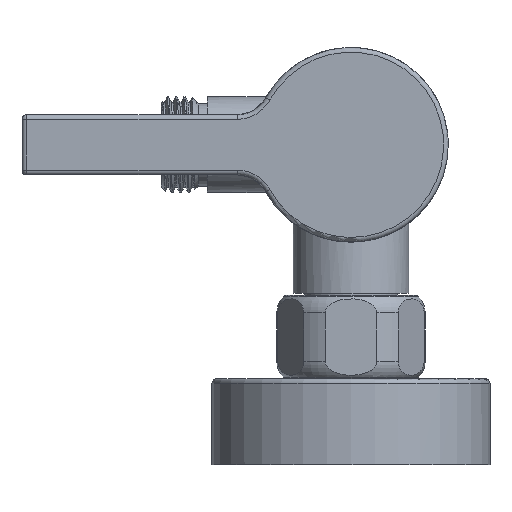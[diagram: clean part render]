
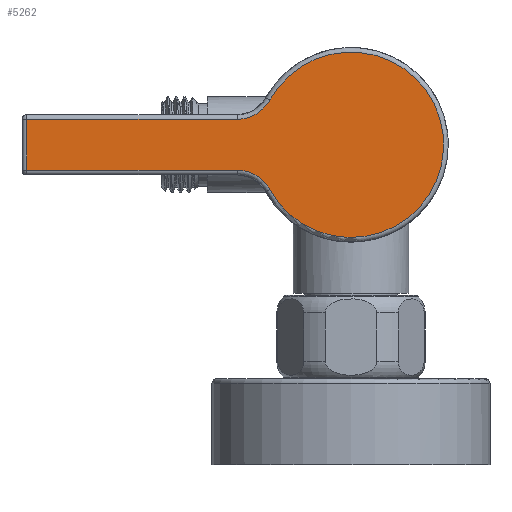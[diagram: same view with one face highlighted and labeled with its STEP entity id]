
A CAD part, front view. The second image highlights one B-rep face of the part: STEP entity #5262.
In plain terms, the highlighted planar face has unit normal (0, -1, 0).
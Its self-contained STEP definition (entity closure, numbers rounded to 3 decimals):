
#662=CARTESIAN_POINT('',(-24.531,-211.35,-13.5));
#663=DIRECTION('',(0.,-1.,0.));
#664=DIRECTION('',(0.876,0.,0.482));
#665=AXIS2_PLACEMENT_3D('',#662,#663,#664);
#667=CARTESIAN_POINT('',(-24.531,-211.35,13.5));
#668=DIRECTION('',(0.,-1.,0.));
#669=DIRECTION('',(0.,0.,-1.));
#670=AXIS2_PLACEMENT_3D('',#667,#668,#669);
#672=CARTESIAN_POINT('',(0.,-211.35,0.));
#673=DIRECTION('',(0.,1.,0.));
#674=DIRECTION('',(-0.876,0.,0.482));
#675=AXIS2_PLACEMENT_3D('',#672,#673,#674);
#677=CARTESIAN_POINT('',(0.,-211.35,0.));
#678=DIRECTION('',(0.,1.,0.));
#679=DIRECTION('',(0.992,0.,0.123));
#680=AXIS2_PLACEMENT_3D('',#677,#678,#679);
#682=DIRECTION('',(1.,0.,0.));
#683=VECTOR('',#682,45.469);
#684=CARTESIAN_POINT('',(-70.,-211.35,-5.5));
#685=LINE('',#684,#683);
#835=DIRECTION('',(-1.,0.,0.));
#836=VECTOR('',#835,45.469);
#837=CARTESIAN_POINT('',(-24.531,-211.35,5.5));
#838=LINE('',#837,#836);
#871=DIRECTION('',(0.,0.,-1.));
#872=VECTOR('',#871,11.);
#873=CARTESIAN_POINT('',(-70.,-211.35,5.5));
#874=LINE('',#873,#872);
#4258=CARTESIAN_POINT('',(-17.522,-211.35,-9.643));
#4259=CARTESIAN_POINT('',(-24.531,-211.35,-5.5));
#4260=VERTEX_POINT('',#4258);
#4261=VERTEX_POINT('',#4259);
#4262=CARTESIAN_POINT('',(-70.,-211.35,-5.5));
#4263=VERTEX_POINT('',#4262);
#4264=CARTESIAN_POINT('',(-70.,-211.35,5.5));
#4265=VERTEX_POINT('',#4264);
#4266=CARTESIAN_POINT('',(-24.531,-211.35,5.5));
#4267=VERTEX_POINT('',#4266);
#4268=CARTESIAN_POINT('',(-17.522,-211.35,9.643));
#4269=VERTEX_POINT('',#4268);
#4270=CARTESIAN_POINT('',(19.848,-211.35,2.458));
#4271=VERTEX_POINT('',#4270);
#5242=CARTESIAN_POINT('',(0.,-211.35,0.));
#5243=DIRECTION('',(0.,-1.,0.));
#5244=DIRECTION('',(-1.,0.,0.));
#5245=AXIS2_PLACEMENT_3D('',#5242,#5243,#5244);
#5246=PLANE('',#5245);
#5247=ORIENTED_EDGE('',*,*,#5232,.T.);
#5249=ORIENTED_EDGE('',*,*,#5248,.F.);
#5251=ORIENTED_EDGE('',*,*,#5250,.F.);
#5253=ORIENTED_EDGE('',*,*,#5252,.F.);
#5255=ORIENTED_EDGE('',*,*,#5254,.T.);
#5257=ORIENTED_EDGE('',*,*,#5256,.T.);
#5259=ORIENTED_EDGE('',*,*,#5258,.T.);
#5260=EDGE_LOOP('',(#5247,#5249,#5251,#5253,#5255,#5257,#5259));
#5261=FACE_OUTER_BOUND('',#5260,.F.);
#5262=ADVANCED_FACE('',(#5261),#5246,.T.);
#666=CIRCLE('',#665,8.);
#671=CIRCLE('',#670,8.);
#676=CIRCLE('',#675,20.);
#681=CIRCLE('',#680,20.);
#5232=EDGE_CURVE('',#4260,#4261,#666,.T.);
#5248=EDGE_CURVE('',#4263,#4261,#685,.T.);
#5250=EDGE_CURVE('',#4265,#4263,#874,.T.);
#5252=EDGE_CURVE('',#4267,#4265,#838,.T.);
#5254=EDGE_CURVE('',#4267,#4269,#671,.T.);
#5256=EDGE_CURVE('',#4269,#4271,#676,.T.);
#5258=EDGE_CURVE('',#4271,#4260,#681,.T.);
